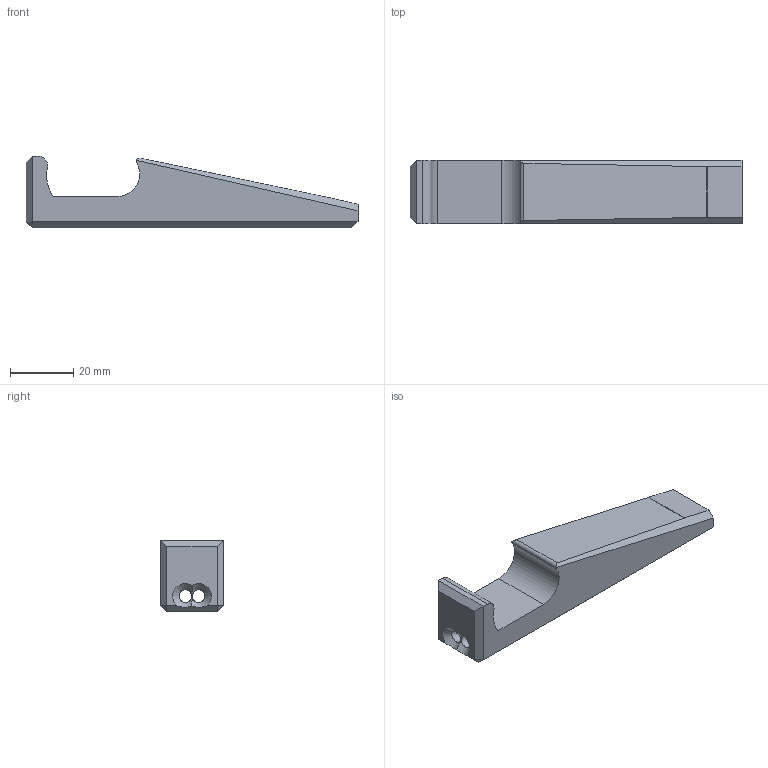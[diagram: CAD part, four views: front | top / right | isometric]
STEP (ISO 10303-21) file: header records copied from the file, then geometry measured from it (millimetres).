
FILE_DESCRIPTION(/* description */ ('STEP AP242 Edition 2','CAx-IF Rec.Pracs.---Representation and Presentation of Product Manufacturing Information (PMI)---4.0---2014-10-13','CAx-IF Rec.Pracs.---3D Tessellated Geometry---0.4---2014-09-14','2;1','CAx-IF Rec.Pracs.---User Defined Attributes---1.5---2016-08-15'),/* implementation_level */ '2;1');
FILE_NAME(/* name */ '695aff62d13f1a0233889628',/* time_stamp */ '2026-01-05T00:01:38Z',/* author */ (''),/* organization */ (''),/* preprocessor_version */ 'ST-DEVELOPER v20',/* originating_system */ 'ONSHAPE BY PTC INC, 1.208',/* authorisation */ ' ');
FILE_SCHEMA (('AP242_MANAGED_MODEL_BASED_3D_ENGINEERING_MIM_LF { 1 0 10303 442 3 1 4 }'));
Length unit declared in the file: metre
Products named in the file (1): Part 1
Bounding box: 105 x 20 x 22.73 mm (x, y, z)
Volume: 26257.8 mm3; surface area: 10259.5 mm2
Topology: 1 solids, 1 shells, 29 faces, 75 edges, 46 vertices
Faces by surface type: plane 21, cylinder 6, cone 2
Full cylindrical faces by diameter (mm): 4 x2
Entity records: 871 total; most frequent: CARTESIAN_POINT 159, DIRECTION 142, ORIENTED_EDGE 138, EDGE_CURVE 69, LINE 50, VECTOR 50, AXIS2_PLACEMENT_3D 46, VERTEX_POINT 44
